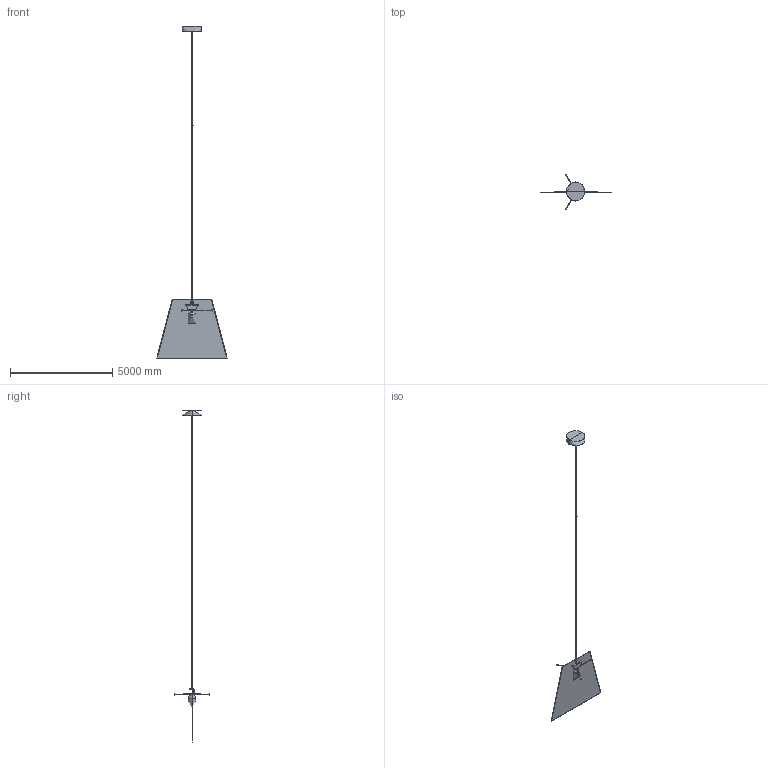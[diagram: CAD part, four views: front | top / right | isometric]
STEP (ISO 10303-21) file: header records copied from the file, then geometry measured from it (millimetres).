
FILE_DESCRIPTION(/* description */ (''),/* implementation_level */ '2;1');
FILE_NAME(/* name */ '1106',/* time_stamp */ '2022-01-18T15:30:45+01:00',/* author */ (''),/* organization */ (''),/* preprocessor_version */ 'ST-DEVELOPER v16.5',/* originating_system */ '',/* authorisation */ '');
FILE_SCHEMA (('CONFIG_CONTROL_DESIGN'));
Length unit declared in the file: centimetre
Products named in the file (1): Document
Bounding box: 3441.05 x 1710.47 x 16235.2 mm (x, y, z)
Volume: 851867685 mm3; surface area: 59770256.7 mm2
Topology: 18 solids, 18 shells, 208 faces, 482 edges, 307 vertices
Faces by surface type: plane 99, cylinder 81, bspline 28
Entity records: 7240 total; most frequent: CARTESIAN_POINT 3903, ORIENTED_EDGE 936, EDGE_CURVE 468, VERTEX_POINT 307, EDGE_LOOP 251, B_SPLINE_CURVE_WITH_KNOTS 236, ADVANCED_FACE 208, FACE_OUTER_BOUND 208
